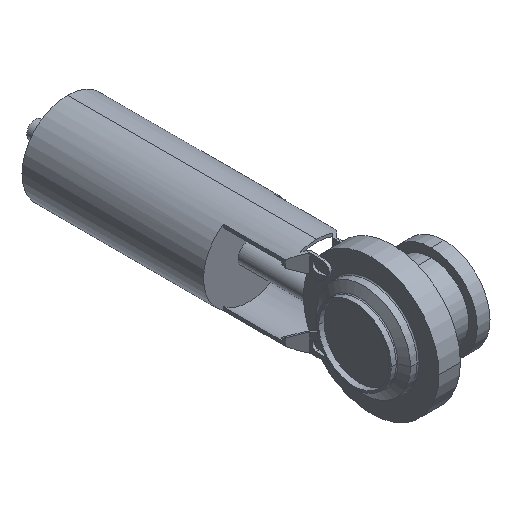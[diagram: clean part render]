
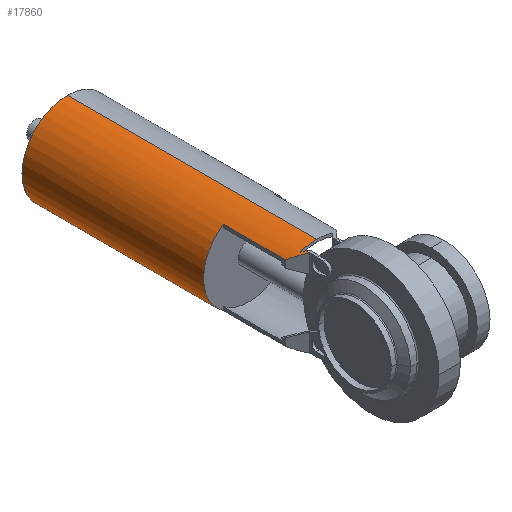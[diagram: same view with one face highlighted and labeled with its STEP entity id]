
A CAD part, isometric view. The second image highlights one B-rep face of the part: STEP entity #17860.
In plain terms, the highlighted cylindrical face has radius 42.5 mm (diameter 85 mm), a partial arc.
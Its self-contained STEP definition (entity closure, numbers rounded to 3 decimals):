
#7170=CARTESIAN_POINT('',(-98.126,339.806,
0.));
#7180=DIRECTION('',(0.,-1.,0.));
#7190=DIRECTION('',(0.,0.,-1.));
#7200=AXIS2_PLACEMENT_3D('',#7170,#7180,#7190);
#7210=CIRCLE('',#7200,42.5);
#7220=CARTESIAN_POINT('',(-98.126,339.806,-42.5));
#7230=VERTEX_POINT('',#7220);
#7240=CARTESIAN_POINT('',(-98.126,339.806,42.5));
#7250=VERTEX_POINT('',#7240);
#7280=EDGE_CURVE('',#7250,#7230,#7210,.T.);
#10580=CARTESIAN_POINT('',(-113.184,106.406,
-39.743));
#10590=VERTEX_POINT('',#10580);
#10620=CARTESIAN_POINT('',(-98.126,91.348,
0.));
#10630=DIRECTION('',(0.707,0.707,-0.));
#10640=DIRECTION('',(0.707,-0.707,0.));
#10650=AXIS2_PLACEMENT_3D('',#10620,#10630,#10640);
#10660=ELLIPSE('',#10650,60.104,42.5);
#10670=CARTESIAN_POINT('',(-108.126,101.348,
-41.307));
#10680=VERTEX_POINT('',#10670);
#10690=EDGE_CURVE('',#10680,#10590,#10660,.T.);
#12110=CARTESIAN_POINT('',(-110.626,93.857,
-40.62));
#12120=VERTEX_POINT('',#12110);
#12150=CARTESIAN_POINT('',(-110.626,169.806,
-40.62));
#12160=DIRECTION('',(0.,-1.,0.));
#12170=VECTOR('',#12160,1.);
#12180=LINE('',#12150,#12170);
#12190=CARTESIAN_POINT('',(-110.626,100.312,
-40.62));
#12200=VERTEX_POINT('',#12190);
#12210=EDGE_CURVE('',#12200,#12120,#12180,.T.);
#13620=CARTESIAN_POINT('',(-98.126,87.812,
0.));
#13630=DIRECTION('',(0.707,0.707,0.));
#13640=DIRECTION('',(0.707,-0.707,0.));
#13650=AXIS2_PLACEMENT_3D('',#13620,#13630,#13640);
#13660=ELLIPSE('',#13650,60.104,42.5);
#13670=CARTESIAN_POINT('',(-122.126,111.812,
-35.075));
#13680=VERTEX_POINT('',#13670);
#13690=EDGE_CURVE('',#12200,#13680,#13660,.T.);
#16700=CARTESIAN_POINT('',(-98.126,169.806,
0.));
#16710=DIRECTION('',(0.,-1.,0.));
#16720=DIRECTION('',(0.,0.,-1.));
#16730=AXIS2_PLACEMENT_3D('',#16700,#16710,#16720);
#16740=CYLINDRICAL_SURFACE('',#16730,42.5);
#16750=CARTESIAN_POINT('',(-98.126,169.806,42.5));
#16760=DIRECTION('',(0.,-1.,0.));
#16770=VECTOR('',#16760,1.);
#16780=LINE('',#16750,#16770);
#16790=CARTESIAN_POINT('',(-98.126,106.406,42.5));
#16800=VERTEX_POINT('',#16790);
#16810=EDGE_CURVE('',#7250,#16800,#16780,.T.);
#16820=ORIENTED_EDGE('',*,*,#16810,.F.);
#16830=CARTESIAN_POINT('',(-98.126,106.406,
0.));
#16840=DIRECTION('',(0.,-1.,0.));
#16850=DIRECTION('',(0.,0.,-1.));
#16860=AXIS2_PLACEMENT_3D('',#16830,#16840,#16850);
#16870=CIRCLE('',#16860,42.5);
#16880=CARTESIAN_POINT('',(-113.184,106.406,
39.743));
#16890=VERTEX_POINT('',#16880);
#16900=EDGE_CURVE('',#16800,#16890,#16870,.T.);
#16910=ORIENTED_EDGE('',*,*,#16900,.F.);
#16920=CARTESIAN_POINT('',(-98.126,91.348,
0.));
#16930=DIRECTION('',(0.707,0.707,-0.));
#16940=DIRECTION('',(-0.707,0.707,0.));
#16950=AXIS2_PLACEMENT_3D('',#16920,#16930,#16940);
#16960=ELLIPSE('',#16950,60.104,42.5);
#16970=CARTESIAN_POINT('',(-110.626,103.848,
40.62));
#16980=VERTEX_POINT('',#16970);
#16990=EDGE_CURVE('',#16890,#16980,#16960,.T.);
#17000=ORIENTED_EDGE('',*,*,#16990,.F.);
#17010=CARTESIAN_POINT('',(-110.626,169.806,
40.62));
#17020=DIRECTION('',(0.,-1.,0.));
#17030=VECTOR('',#17020,1.);
#17040=LINE('',#17010,#17030);
#17050=CARTESIAN_POINT('',(-110.626,100.312,
40.62));
#17060=VERTEX_POINT('',#17050);
#17070=EDGE_CURVE('',#16980,#17060,#17040,.T.);
#17080=ORIENTED_EDGE('',*,*,#17070,.F.);
#17090=CARTESIAN_POINT('',(-98.126,87.812,
0.));
#17100=DIRECTION('',(-0.707,-0.707,0.));
#17110=DIRECTION('',(0.707,-0.707,0.));
#17120=AXIS2_PLACEMENT_3D('',#17090,#17100,#17110);
#17130=ELLIPSE('',#17120,60.104,42.5);
#17140=CARTESIAN_POINT('',(-122.126,111.812,
35.075));
#17150=VERTEX_POINT('',#17140);
#17160=EDGE_CURVE('',#17060,#17150,#17130,.T.);
#17170=ORIENTED_EDGE('',*,*,#17160,.F.);
#17180=CARTESIAN_POINT('',(-122.126,169.806,
35.075));
#17190=DIRECTION('',(0.,-1.,0.));
#17200=VECTOR('',#17190,1.);
#17210=LINE('',#17180,#17200);
#17220=CARTESIAN_POINT('',(-122.126,169.806,
35.075));
#17230=VERTEX_POINT('',#17220);
#17240=EDGE_CURVE('',#17230,#17150,#17210,.T.);
#17250=ORIENTED_EDGE('',*,*,#17240,.T.);
#17260=CARTESIAN_POINT('',(-98.126,169.806,
0.));
#17270=DIRECTION('',(0.,-1.,0.));
#17280=DIRECTION('',(0.,0.,-1.));
#17290=AXIS2_PLACEMENT_3D('',#17260,#17270,#17280);
#17300=CIRCLE('',#17290,42.5);
#17310=CARTESIAN_POINT('',(-122.126,169.806,
-35.075));
#17320=VERTEX_POINT('',#17310);
#17330=EDGE_CURVE('',#17230,#17320,#17300,.T.);
#17340=ORIENTED_EDGE('',*,*,#17330,.F.);
#17350=CARTESIAN_POINT('',(-122.126,169.806,
-35.075));
#17360=DIRECTION('',(0.,-1.,0.));
#17370=VECTOR('',#17360,1.);
#17380=LINE('',#17350,#17370);
#17390=EDGE_CURVE('',#17320,#13680,#17380,.T.);
#17400=ORIENTED_EDGE('',*,*,#17390,.F.);
#17410=ORIENTED_EDGE('',*,*,#13690,.T.);
#17420=ORIENTED_EDGE('',*,*,#12210,.F.);
#17430=CARTESIAN_POINT('',(-98.126,-262.662,
0.));
#17440=DIRECTION('',(0.,-0.113,-0.994));
#17450=DIRECTION('',(0.,0.994,-0.113));
#17460=AXIS2_PLACEMENT_3D('',#17430,#17440,#17450);
#17470=ELLIPSE('',#17460,375.431,42.5);
#17480=CARTESIAN_POINT('',(-108.774,98.46,
-41.145));
#17490=VERTEX_POINT('',#17480);
#17500=EDGE_CURVE('',#12120,#17490,#17470,.T.);
#17510=ORIENTED_EDGE('',*,*,#17500,.F.);
#17520=CARTESIAN_POINT('',(-98.126,87.812,
0.));
#17530=DIRECTION('',(-0.707,-0.707,-0.));
#17540=DIRECTION('',(-0.707,0.707,0.));
#17550=AXIS2_PLACEMENT_3D('',#17520,#17530,#17540);
#17560=ELLIPSE('',#17550,60.104,42.5);
#17570=CARTESIAN_POINT('',(-108.126,97.812,
-41.307));
#17580=VERTEX_POINT('',#17570);
#17590=EDGE_CURVE('',#17490,#17580,#17560,.T.);
#17600=ORIENTED_EDGE('',*,*,#17590,.F.);
#17610=CARTESIAN_POINT('',(-108.126,169.806,
-41.307));
#17620=DIRECTION('',(0.,-1.,0.));
#17630=VECTOR('',#17620,1.);
#17640=LINE('',#17610,#17630);
#17650=EDGE_CURVE('',#10680,#17580,#17640,.T.);
#17660=ORIENTED_EDGE('',*,*,#17650,.T.);
#17670=ORIENTED_EDGE('',*,*,#10690,.F.);
#17680=CARTESIAN_POINT('',(-98.126,106.406,
0.));
#17690=DIRECTION('',(0.,-1.,0.));
#17700=DIRECTION('',(0.,0.,-1.));
#17710=AXIS2_PLACEMENT_3D('',#17680,#17690,#17700);
#17720=CIRCLE('',#17710,42.5);
#17730=CARTESIAN_POINT('',(-98.126,106.406,-42.5));
#17740=VERTEX_POINT('',#17730);
#17750=EDGE_CURVE('',#10590,#17740,#17720,.T.);
#17760=ORIENTED_EDGE('',*,*,#17750,.F.);
#17770=CARTESIAN_POINT('',(-98.126,169.806,-42.5));
#17780=DIRECTION('',(0.,-1.,0.));
#17790=VECTOR('',#17780,1.);
#17800=LINE('',#17770,#17790);
#17810=EDGE_CURVE('',#7230,#17740,#17800,.T.);
#17820=ORIENTED_EDGE('',*,*,#17810,.T.);
#17830=ORIENTED_EDGE('',*,*,#7280,.T.);
#17840=EDGE_LOOP('',(#17830,#17820,#17760,#17670,#17660,#17600,#17510,
#17420,#17410,#17400,#17340,#17250,#17170,#17080,#17000,#16910,#16820));
#17850=FACE_OUTER_BOUND('',#17840,.T.);
#17860=ADVANCED_FACE('',(#17850),#16740,.T.);
